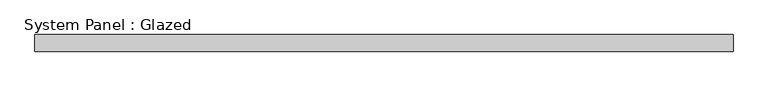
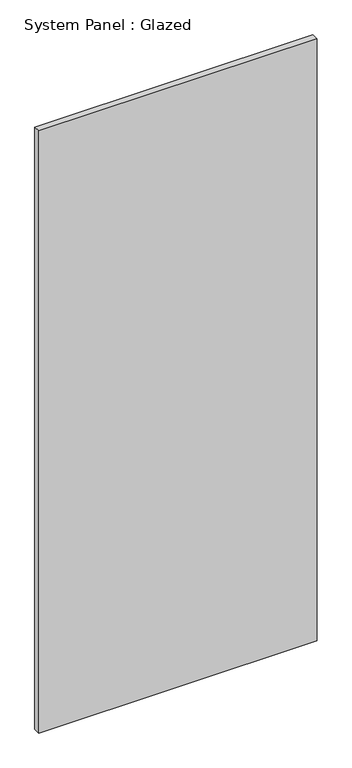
"""IFC4 building model written with IfcOpenShell, lengths in millimetres: plate geometry, System Panel : Glazed."""

from ifc_helpers import new_model, si_unit, origin, origin_with_axes, place, context, project, spatial, polyline, outline, extrude, source, transform, mapped, element, save


def system_panel_glazed_5775386d(model_context):
    return source(origin(), model_context, "Body", "SweptSolid", [
        extrude(outline(polyline([(519.2083334, 19.05), (-519.2083334, 19.05), (-519.2083334, 44.45), (519.2083334, 44.45), (519.2083334, 19.05)])), origin_with_axes(), (0.0, 0.0, 1.0), 2374.9),
    ])


if __name__ == "__main__":
    model = new_model("IFC4")
    model_context = context("Model", 3, world=origin())
    ifc_project = project(units=[si_unit("LENGTHUNIT", "METRE", prefix="MILLI")], contexts=[model_context])
    site = spatial("IfcSite", under=ifc_project)
    building = spatial("IfcBuilding", under=site)
    placement = place(None, origin())
    system_panel_glazed_shape = system_panel_glazed_5775386d(model_context)
    element("IfcPlate", 1, ObjectType="System Panel : Glazed", at=placement, inside=building, context=model_context, shape_type="MappedRepresentation", body=[
        mapped(system_panel_glazed_shape, transform((0.0, 0.0, 0.0), x_axis=(1.0, 0.0, 0.0), y_axis=(0.0, 1.0, 0.0), z_axis=(0.0, 0.0, 1.0))),
    ])
    save(model, "model.ifc")
